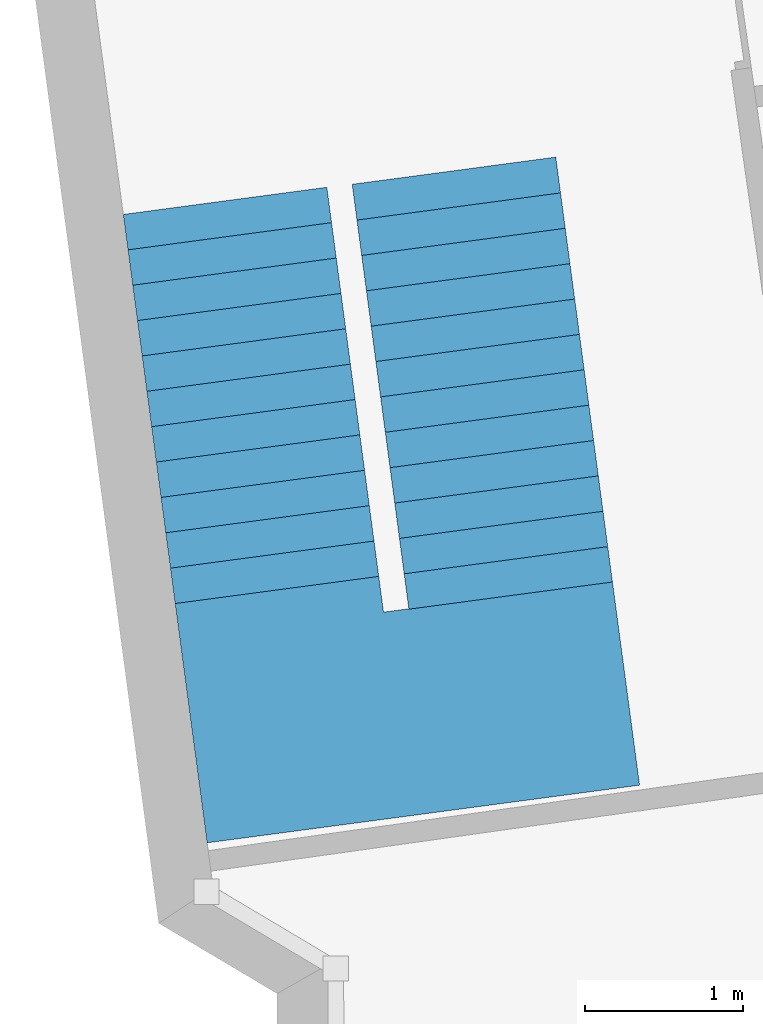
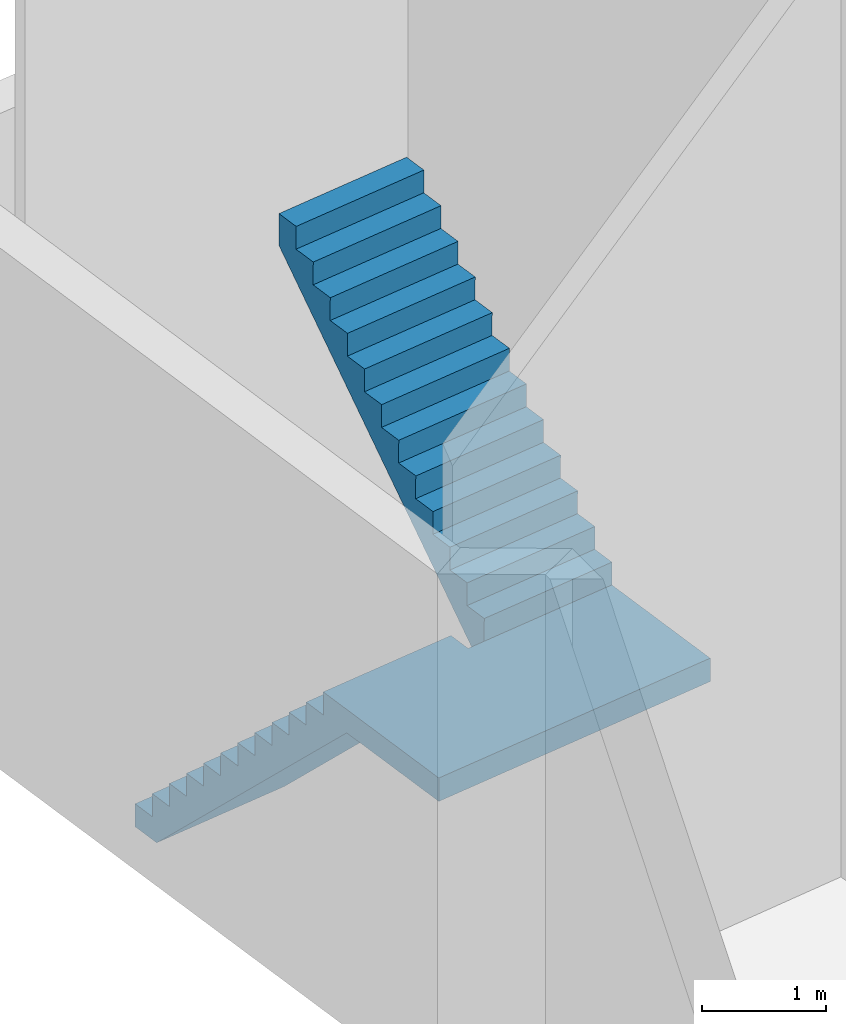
# One storey, part 36 of 40: 1 stair.
"""IFC2X3 building model written with IfcOpenShell, lengths in metres."""

from ifc_helpers import new_model, entity, si_unit, converted_unit, money_unit, direction, frame, origin_with_axes, place, context, subcontext, project, spatial, faceted_brep, material, element, save


model = new_model("IFC2X3")

# Units and contexts
model_context = context("Model", 3, precision=1e-05, world=origin_with_axes(), true_north=direction((0.0, 1.0)))
body_context = subcontext(model_context, "Body", "Model", "MODEL_VIEW")
ifc_project = project(units=[si_unit("LENGTHUNIT", "METRE"), si_unit("AREAUNIT", "SQUARE_METRE"), si_unit("VOLUMEUNIT", "CUBIC_METRE"), converted_unit("PLANEANGLEUNIT", "DEGREE", entity("IfcPlaneAngleMeasure", 0.0174532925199), si_unit("PLANEANGLEUNIT", "RADIAN"), dimensions=[0, 0, 0, 0, 0, 0, 0]), si_unit("SOLIDANGLEUNIT", "STERADIAN"), money_unit("EUR"), converted_unit("TIMEUNIT", "Year", entity("IfcTimeMeasure", 31556926.0), si_unit("TIMEUNIT", "SECOND"), dimensions=[0, 0, 0, 0, 0, 0, 0]), si_unit("MASSUNIT", "GRAM"), si_unit("THERMODYNAMICTEMPERATUREUNIT", "DEGREE_CELSIUS"), si_unit("LUMINOUSINTENSITYUNIT", "LUMEN")], contexts=[model_context])

# Site, building, storey
site_placement = place(None, origin_with_axes())
site = spatial("IfcSite", under=ifc_project, at=site_placement, Name="Undefined", CompositionType="ELEMENT")
building_placement = place(site_placement, origin_with_axes())
building = spatial("IfcBuilding", under=site, at=building_placement, Name="Undefined", CompositionType="ELEMENT")
storey_placement = place(building_placement, origin_with_axes())
storey = spatial("IfcBuildingStorey", under=building, at=storey_placement, Name="Rez de chauss\x8ee", CompositionType="ELEMENT", Elevation=0.0)

# Stair
ifc_material = material(Name="Concrete Block")
stair_placement = place(storey_placement, frame((-1.34151380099, 23.3619853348, 0.0), z_axis=(0.0, 0.0, 1.0), x_axis=(0.132256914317, -0.991215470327, 0.0)))
element("IfcStair", 1, at=stair_placement, inside=storey, material=ifc_material, Name="Stair_01", ObjectType="STAIR", ShapeType="NOTDEFINED", context=body_context, shape_type="Brep", body=[
    faceted_brep([(0.283132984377, 0.0, 0.0), (0.283132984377, 1.29732646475, 0.0), (2.78826168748, 1.29732646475, 2.47), (2.78826168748, 0.0, 2.47), (0.02, 0.0, 0.0), (0.02, 1.29732646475, 0.0), (0.02, 1.29732646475, 0.195), (0.245461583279, 1.29732646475, 0.195), (0.245461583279, 1.29732646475, 0.42), (0.470923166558, 1.29732646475, 0.42), (0.470923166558, 1.29732646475, 0.645), (0.696384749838, 1.29732646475, 0.645), (0.696384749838, 1.29732646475, 0.87), (0.921846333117, 1.29732646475, 0.87), (0.921846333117, 1.29732646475, 1.095), (1.1473079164, 1.29732646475, 1.095), (1.1473079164, 1.29732646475, 1.32), (1.37276949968, 1.29732646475, 1.32), (1.37276949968, 1.29732646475, 1.545), (1.59823108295, 1.29732646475, 1.545), (1.59823108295, 1.29732646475, 1.77), (1.82369266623, 1.29732646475, 1.77), (1.82369266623, 1.29732646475, 1.995), (2.04915424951, 1.29732646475, 1.995), (2.04915424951, 1.29732646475, 2.22), (2.27461583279, 1.29732646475, 2.22), (2.27461583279, 1.29732646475, 2.445), (2.50007741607, 1.29732646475, 2.445), (2.50007741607, 1.29732646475, 2.67), (2.72553899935, 1.29732646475, 2.67), (4.0028654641, 1.29732646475, 2.67), (4.0028654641, 1.29732646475, 2.47), (4.0028654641, 0.0, 2.47), (4.0028654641, 0.0, 2.67), (2.72553899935, 0.0, 2.67), (2.50007741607, 0.0, 2.67), (2.50007741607, 0.0, 2.445), (2.27461583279, 0.0, 2.445), (2.27461583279, 0.0, 2.22), (2.04915424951, 0.0, 2.22), (2.04915424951, 0.0, 1.995), (1.82369266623, 0.0, 1.995), (1.82369266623, 0.0, 1.77), (1.59823108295, 0.0, 1.77), (1.59823108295, 0.0, 1.545), (1.37276949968, 0.0, 1.545), (1.37276949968, 0.0, 1.32), (1.1473079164, 0.0, 1.32), (1.1473079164, 0.0, 1.095), (0.921846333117, 0.0, 1.095), (0.921846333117, 0.0, 0.87), (0.696384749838, 0.0, 0.87), (0.696384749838, 0.0, 0.645), (0.470923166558, 0.0, 0.645), (0.470923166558, 0.0, 0.42), (0.245461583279, 0.0, 0.42), (0.245461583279, 0.0, 0.195), (0.02, 0.0, 0.195)], [[[0, 1, 2, 3]], [[4, 5, 1, 0]], [[1, 5, 6, 7, 8, 9, 10, 11, 12, 13, 14, 15, 16, 17, 18, 19, 20, 21, 22, 23, 24, 25, 26, 27, 28, 29, 30, 31, 2]], [[3, 2, 31, 32]], [[0, 3, 32, 33, 34, 35, 36, 37, 38, 39, 40, 41, 42, 43, 44, 45, 46, 47, 48, 49, 50, 51, 52, 53, 54, 55, 56, 57, 4]], [[57, 6, 5, 4]], [[56, 7, 6, 57]], [[55, 8, 7, 56]], [[54, 9, 8, 55]], [[53, 10, 9, 54]], [[52, 11, 10, 53]], [[51, 12, 11, 52]], [[50, 13, 12, 51]], [[49, 14, 13, 50]], [[48, 15, 14, 49]], [[47, 16, 15, 48]], [[46, 17, 16, 47]], [[45, 18, 17, 46]], [[44, 19, 18, 45]], [[43, 20, 19, 44]], [[42, 21, 20, 43]], [[41, 22, 21, 42]], [[40, 23, 22, 41]], [[39, 24, 23, 40]], [[38, 25, 24, 39]], [[37, 26, 25, 38]], [[36, 27, 26, 37]], [[35, 28, 27, 36]], [[34, 29, 28, 35]], [[33, 30, 29, 34]], [[32, 31, 30, 33]]]),
    faceted_brep([(2.70553899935, 1.29732646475, 2.67), (2.70553899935, 1.45900763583, 2.67), (2.70553899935, 1.45900763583, 2.47), (2.70553899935, 1.29732646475, 2.47), (4.0028654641, 1.29732646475, 2.67), (4.0028654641, 1.45900763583, 2.67), (4.0028654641, 1.45900763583, 2.47), (2.78826168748, 1.45900763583, 2.47), (2.78826168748, 1.29732646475, 2.47), (4.0028654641, 1.29732646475, 2.47)], [[[0, 1, 2, 3]], [[4, 5, 1, 0]], [[1, 5, 6, 7, 2]], [[3, 2, 7, 8]], [[0, 3, 8, 9, 4]], [[9, 6, 5, 4]], [[8, 7, 6, 9]]]),
    faceted_brep([(2.70553899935, 1.45900763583, 2.67), (2.70553899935, 2.75633410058, 2.67), (2.70553899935, 2.75633410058, 2.47), (2.70553899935, 1.45900763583, 2.47), (4.0028654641, 1.45900763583, 2.67), (4.0028654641, 2.75633410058, 2.67), (4.0028654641, 2.75633410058, 2.47), (4.0028654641, 1.45900763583, 2.47)], [[[0, 1, 2, 3]], [[4, 5, 1, 0]], [[1, 5, 6, 2]], [[3, 2, 6, 7]], [[0, 3, 7, 4]], [[7, 6, 5, 4]]]),
    faceted_brep([(2.70553899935, 1.45900763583, 2.47), (2.62281631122, 1.45900763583, 2.47), (2.62281631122, 2.75633410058, 2.47), (2.70553899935, 2.75633410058, 2.47), (2.70553899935, 1.45900763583, 2.67), (2.68553899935, 1.45900763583, 2.67), (2.68553899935, 1.45900763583, 2.895), (2.46007741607, 1.45900763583, 2.895), (2.46007741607, 1.45900763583, 3.12), (2.23461583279, 1.45900763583, 3.12), (2.23461583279, 1.45900763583, 3.345), (2.00915424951, 1.45900763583, 3.345), (2.00915424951, 1.45900763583, 3.57), (1.78369266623, 1.45900763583, 3.57), (1.78369266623, 1.45900763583, 3.795), (1.55823108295, 1.45900763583, 3.795), (1.55823108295, 1.45900763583, 4.02), (1.33276949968, 1.45900763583, 4.02), (1.33276949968, 1.45900763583, 4.245), (1.1073079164, 1.45900763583, 4.245), (1.1073079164, 1.45900763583, 4.47), (0.881846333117, 1.45900763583, 4.47), (0.881846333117, 1.45900763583, 4.695), (0.656384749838, 1.45900763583, 4.695), (0.656384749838, 1.45900763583, 4.92), (0.430923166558, 1.45900763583, 4.92), (0.430923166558, 1.45900763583, 5.145), (0.205461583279, 1.45900763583, 5.145), (0.205461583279, 1.45900763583, 5.37), (0.0, 1.45900763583, 5.37), (0.0, 1.45900763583, 5.08744666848), (0.0, 2.75633410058, 5.08744666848), (0.0, 2.75633410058, 5.37), (0.205461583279, 2.75633410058, 5.37), (0.205461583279, 2.75633410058, 5.145), (0.430923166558, 2.75633410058, 5.145), (0.430923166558, 2.75633410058, 4.92), (0.656384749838, 2.75633410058, 4.92), (0.656384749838, 2.75633410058, 4.695), (0.881846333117, 2.75633410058, 4.695), (0.881846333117, 2.75633410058, 4.47), (1.1073079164, 2.75633410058, 4.47), (1.1073079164, 2.75633410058, 4.245), (1.33276949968, 2.75633410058, 4.245), (1.33276949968, 2.75633410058, 4.02), (1.55823108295, 2.75633410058, 4.02), (1.55823108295, 2.75633410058, 3.795), (1.78369266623, 2.75633410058, 3.795), (1.78369266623, 2.75633410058, 3.57), (2.00915424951, 2.75633410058, 3.57), (2.00915424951, 2.75633410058, 3.345), (2.23461583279, 2.75633410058, 3.345), (2.23461583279, 2.75633410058, 3.12), (2.46007741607, 2.75633410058, 3.12), (2.46007741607, 2.75633410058, 2.895), (2.68553899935, 2.75633410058, 2.895), (2.68553899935, 2.75633410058, 2.67), (2.70553899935, 2.75633410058, 2.67)], [[[0, 1, 2, 3]], [[0, 4, 5, 6, 7, 8, 9, 10, 11, 12, 13, 14, 15, 16, 17, 18, 19, 20, 21, 22, 23, 24, 25, 26, 27, 28, 29, 30, 1]], [[1, 30, 31, 2]], [[3, 2, 31, 32, 33, 34, 35, 36, 37, 38, 39, 40, 41, 42, 43, 44, 45, 46, 47, 48, 49, 50, 51, 52, 53, 54, 55, 56, 57]], [[4, 0, 3, 57]], [[5, 4, 57, 56]], [[6, 5, 56, 55]], [[7, 6, 55, 54]], [[8, 7, 54, 53]], [[9, 8, 53, 52]], [[10, 9, 52, 51]], [[11, 10, 51, 50]], [[12, 11, 50, 49]], [[13, 12, 49, 48]], [[14, 13, 48, 47]], [[15, 14, 47, 46]], [[16, 15, 46, 45]], [[17, 16, 45, 44]], [[18, 17, 44, 43]], [[19, 18, 43, 42]], [[20, 19, 42, 41]], [[21, 20, 41, 40]], [[22, 21, 40, 39]], [[23, 22, 39, 38]], [[24, 23, 38, 37]], [[25, 24, 37, 36]], [[26, 25, 36, 35]], [[27, 26, 35, 34]], [[28, 27, 34, 33]], [[29, 28, 33, 32]], [[30, 29, 32, 31]]]),
    faceted_brep([(0.0, 0.0, 0.0), (0.0, 1.29732646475, 0.0), (0.02, 1.29732646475, 0.0), (0.02, 0.0, 0.0), (0.0, 0.0, 0.195), (0.0, 1.29732646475, 0.195), (0.02, 1.29732646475, 0.195), (0.02, 0.0, 0.195)], [[[0, 1, 2, 3]], [[4, 5, 1, 0]], [[1, 5, 6, 2]], [[3, 2, 6, 7]], [[0, 3, 7, 4]], [[7, 6, 5, 4]]]),
    faceted_brep([(0.225461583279, 0.0, 0.225), (0.225461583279, 1.29732646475, 0.225), (0.245461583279, 1.29732646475, 0.225), (0.245461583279, 0.0, 0.225), (0.225461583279, 0.0, 0.42), (0.225461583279, 1.29732646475, 0.42), (0.245461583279, 1.29732646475, 0.42), (0.245461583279, 0.0, 0.42)], [[[0, 1, 2, 3]], [[4, 5, 1, 0]], [[1, 5, 6, 2]], [[3, 2, 6, 7]], [[0, 3, 7, 4]], [[7, 6, 5, 4]]]),
    faceted_brep([(0.450923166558, 0.0, 0.45), (0.450923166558, 1.29732646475, 0.45), (0.470923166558, 1.29732646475, 0.45), (0.470923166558, 0.0, 0.45), (0.450923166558, 0.0, 0.645), (0.450923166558, 1.29732646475, 0.645), (0.470923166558, 1.29732646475, 0.645), (0.470923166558, 0.0, 0.645)], [[[0, 1, 2, 3]], [[4, 5, 1, 0]], [[1, 5, 6, 2]], [[3, 2, 6, 7]], [[0, 3, 7, 4]], [[7, 6, 5, 4]]]),
    faceted_brep([(0.676384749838, 0.0, 0.675), (0.676384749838, 1.29732646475, 0.675), (0.696384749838, 1.29732646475, 0.675), (0.696384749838, 0.0, 0.675), (0.676384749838, 0.0, 0.87), (0.676384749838, 1.29732646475, 0.87), (0.696384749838, 1.29732646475, 0.87), (0.696384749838, 0.0, 0.87)], [[[0, 1, 2, 3]], [[4, 5, 1, 0]], [[1, 5, 6, 2]], [[3, 2, 6, 7]], [[0, 3, 7, 4]], [[7, 6, 5, 4]]]),
    faceted_brep([(0.901846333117, 0.0, 0.9), (0.901846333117, 1.29732646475, 0.9), (0.921846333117, 1.29732646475, 0.9), (0.921846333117, 0.0, 0.9), (0.901846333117, 0.0, 1.095), (0.901846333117, 1.29732646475, 1.095), (0.921846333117, 1.29732646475, 1.095), (0.921846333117, 0.0, 1.095)], [[[0, 1, 2, 3]], [[4, 5, 1, 0]], [[1, 5, 6, 2]], [[3, 2, 6, 7]], [[0, 3, 7, 4]], [[7, 6, 5, 4]]]),
    faceted_brep([(1.1273079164, 0.0, 1.125), (1.1273079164, 1.29732646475, 1.125), (1.1473079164, 1.29732646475, 1.125), (1.1473079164, 0.0, 1.125), (1.1273079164, 0.0, 1.32), (1.1273079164, 1.29732646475, 1.32), (1.1473079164, 1.29732646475, 1.32), (1.1473079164, 0.0, 1.32)], [[[0, 1, 2, 3]], [[4, 5, 1, 0]], [[1, 5, 6, 2]], [[3, 2, 6, 7]], [[0, 3, 7, 4]], [[7, 6, 5, 4]]]),
    faceted_brep([(1.35276949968, 0.0, 1.35), (1.35276949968, 1.29732646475, 1.35), (1.37276949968, 1.29732646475, 1.35), (1.37276949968, 0.0, 1.35), (1.35276949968, 0.0, 1.545), (1.35276949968, 1.29732646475, 1.545), (1.37276949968, 1.29732646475, 1.545), (1.37276949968, 0.0, 1.545)], [[[0, 1, 2, 3]], [[4, 5, 1, 0]], [[1, 5, 6, 2]], [[3, 2, 6, 7]], [[0, 3, 7, 4]], [[7, 6, 5, 4]]]),
    faceted_brep([(1.57823108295, 0.0, 1.575), (1.57823108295, 1.29732646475, 1.575), (1.59823108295, 1.29732646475, 1.575), (1.59823108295, 0.0, 1.575), (1.57823108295, 0.0, 1.77), (1.57823108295, 1.29732646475, 1.77), (1.59823108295, 1.29732646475, 1.77), (1.59823108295, 0.0, 1.77)], [[[0, 1, 2, 3]], [[4, 5, 1, 0]], [[1, 5, 6, 2]], [[3, 2, 6, 7]], [[0, 3, 7, 4]], [[7, 6, 5, 4]]]),
    faceted_brep([(1.80369266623, 0.0, 1.8), (1.80369266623, 1.29732646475, 1.8), (1.82369266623, 1.29732646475, 1.8), (1.82369266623, 0.0, 1.8), (1.80369266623, 0.0, 1.995), (1.80369266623, 1.29732646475, 1.995), (1.82369266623, 1.29732646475, 1.995), (1.82369266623, 0.0, 1.995)], [[[0, 1, 2, 3]], [[4, 5, 1, 0]], [[1, 5, 6, 2]], [[3, 2, 6, 7]], [[0, 3, 7, 4]], [[7, 6, 5, 4]]]),
    faceted_brep([(2.02915424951, 0.0, 2.025), (2.02915424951, 1.29732646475, 2.025), (2.04915424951, 1.29732646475, 2.025), (2.04915424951, 0.0, 2.025), (2.02915424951, 0.0, 2.22), (2.02915424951, 1.29732646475, 2.22), (2.04915424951, 1.29732646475, 2.22), (2.04915424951, 0.0, 2.22)], [[[0, 1, 2, 3]], [[4, 5, 1, 0]], [[1, 5, 6, 2]], [[3, 2, 6, 7]], [[0, 3, 7, 4]], [[7, 6, 5, 4]]]),
    faceted_brep([(2.25461583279, 0.0, 2.25), (2.25461583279, 1.29732646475, 2.25), (2.27461583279, 1.29732646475, 2.25), (2.27461583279, 0.0, 2.25), (2.25461583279, 0.0, 2.445), (2.25461583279, 1.29732646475, 2.445), (2.27461583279, 1.29732646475, 2.445), (2.27461583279, 0.0, 2.445)], [[[0, 1, 2, 3]], [[4, 5, 1, 0]], [[1, 5, 6, 2]], [[3, 2, 6, 7]], [[0, 3, 7, 4]], [[7, 6, 5, 4]]]),
    faceted_brep([(2.48007741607, 0.0, 2.475), (2.48007741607, 1.29732646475, 2.475), (2.50007741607, 1.29732646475, 2.475), (2.50007741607, 0.0, 2.475), (2.48007741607, 0.0, 2.67), (2.48007741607, 1.29732646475, 2.67), (2.50007741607, 1.29732646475, 2.67), (2.50007741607, 0.0, 2.67)], [[[0, 1, 2, 3]], [[4, 5, 1, 0]], [[1, 5, 6, 2]], [[3, 2, 6, 7]], [[0, 3, 7, 4]], [[7, 6, 5, 4]]]),
    faceted_brep([(2.70553899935, 1.45900763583, 2.7), (2.68553899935, 1.45900763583, 2.7), (2.68553899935, 2.75633410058, 2.7), (2.70553899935, 2.75633410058, 2.7), (2.70553899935, 1.45900763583, 2.895), (2.68553899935, 1.45900763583, 2.895), (2.68553899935, 2.75633410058, 2.895), (2.70553899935, 2.75633410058, 2.895)], [[[0, 1, 2, 3]], [[0, 4, 5, 1]], [[1, 5, 6, 2]], [[3, 2, 6, 7]], [[4, 0, 3, 7]], [[5, 4, 7, 6]]]),
    faceted_brep([(2.48007741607, 1.45900763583, 2.925), (2.46007741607, 1.45900763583, 2.925), (2.46007741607, 2.75633410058, 2.925), (2.48007741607, 2.75633410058, 2.925), (2.48007741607, 1.45900763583, 3.12), (2.46007741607, 1.45900763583, 3.12), (2.46007741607, 2.75633410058, 3.12), (2.48007741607, 2.75633410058, 3.12)], [[[0, 1, 2, 3]], [[0, 4, 5, 1]], [[1, 5, 6, 2]], [[3, 2, 6, 7]], [[4, 0, 3, 7]], [[5, 4, 7, 6]]]),
    faceted_brep([(2.25461583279, 1.45900763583, 3.15), (2.23461583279, 1.45900763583, 3.15), (2.23461583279, 2.75633410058, 3.15), (2.25461583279, 2.75633410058, 3.15), (2.25461583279, 1.45900763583, 3.345), (2.23461583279, 1.45900763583, 3.345), (2.23461583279, 2.75633410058, 3.345), (2.25461583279, 2.75633410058, 3.345)], [[[0, 1, 2, 3]], [[0, 4, 5, 1]], [[1, 5, 6, 2]], [[3, 2, 6, 7]], [[4, 0, 3, 7]], [[5, 4, 7, 6]]]),
    faceted_brep([(2.02915424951, 1.45900763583, 3.375), (2.00915424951, 1.45900763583, 3.375), (2.00915424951, 2.75633410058, 3.375), (2.02915424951, 2.75633410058, 3.375), (2.02915424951, 1.45900763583, 3.57), (2.00915424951, 1.45900763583, 3.57), (2.00915424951, 2.75633410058, 3.57), (2.02915424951, 2.75633410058, 3.57)], [[[0, 1, 2, 3]], [[0, 4, 5, 1]], [[1, 5, 6, 2]], [[3, 2, 6, 7]], [[4, 0, 3, 7]], [[5, 4, 7, 6]]]),
    faceted_brep([(1.80369266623, 1.45900763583, 3.6), (1.78369266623, 1.45900763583, 3.6), (1.78369266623, 2.75633410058, 3.6), (1.80369266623, 2.75633410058, 3.6), (1.80369266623, 1.45900763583, 3.795), (1.78369266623, 1.45900763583, 3.795), (1.78369266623, 2.75633410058, 3.795), (1.80369266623, 2.75633410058, 3.795)], [[[0, 1, 2, 3]], [[0, 4, 5, 1]], [[1, 5, 6, 2]], [[3, 2, 6, 7]], [[4, 0, 3, 7]], [[5, 4, 7, 6]]]),
    faceted_brep([(1.57823108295, 1.45900763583, 3.825), (1.55823108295, 1.45900763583, 3.825), (1.55823108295, 2.75633410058, 3.825), (1.57823108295, 2.75633410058, 3.825), (1.57823108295, 1.45900763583, 4.02), (1.55823108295, 1.45900763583, 4.02), (1.55823108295, 2.75633410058, 4.02), (1.57823108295, 2.75633410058, 4.02)], [[[0, 1, 2, 3]], [[0, 4, 5, 1]], [[1, 5, 6, 2]], [[3, 2, 6, 7]], [[4, 0, 3, 7]], [[5, 4, 7, 6]]]),
    faceted_brep([(1.35276949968, 1.45900763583, 4.05), (1.33276949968, 1.45900763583, 4.05), (1.33276949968, 2.75633410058, 4.05), (1.35276949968, 2.75633410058, 4.05), (1.35276949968, 1.45900763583, 4.245), (1.33276949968, 1.45900763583, 4.245), (1.33276949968, 2.75633410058, 4.245), (1.35276949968, 2.75633410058, 4.245)], [[[0, 1, 2, 3]], [[0, 4, 5, 1]], [[1, 5, 6, 2]], [[3, 2, 6, 7]], [[4, 0, 3, 7]], [[5, 4, 7, 6]]]),
    faceted_brep([(1.1273079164, 1.45900763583, 4.275), (1.1073079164, 1.45900763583, 4.275), (1.1073079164, 2.75633410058, 4.275), (1.1273079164, 2.75633410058, 4.275), (1.1273079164, 1.45900763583, 4.47), (1.1073079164, 1.45900763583, 4.47), (1.1073079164, 2.75633410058, 4.47), (1.1273079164, 2.75633410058, 4.47)], [[[0, 1, 2, 3]], [[0, 4, 5, 1]], [[1, 5, 6, 2]], [[3, 2, 6, 7]], [[4, 0, 3, 7]], [[5, 4, 7, 6]]]),
    faceted_brep([(0.901846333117, 1.45900763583, 4.5), (0.881846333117, 1.45900763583, 4.5), (0.881846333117, 2.75633410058, 4.5), (0.901846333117, 2.75633410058, 4.5), (0.901846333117, 1.45900763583, 4.695), (0.881846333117, 1.45900763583, 4.695), (0.881846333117, 2.75633410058, 4.695), (0.901846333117, 2.75633410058, 4.695)], [[[0, 1, 2, 3]], [[0, 4, 5, 1]], [[1, 5, 6, 2]], [[3, 2, 6, 7]], [[4, 0, 3, 7]], [[5, 4, 7, 6]]]),
    faceted_brep([(0.676384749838, 1.45900763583, 4.725), (0.656384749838, 1.45900763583, 4.725), (0.656384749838, 2.75633410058, 4.725), (0.676384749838, 2.75633410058, 4.725), (0.676384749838, 1.45900763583, 4.92), (0.656384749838, 1.45900763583, 4.92), (0.656384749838, 2.75633410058, 4.92), (0.676384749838, 2.75633410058, 4.92)], [[[0, 1, 2, 3]], [[0, 4, 5, 1]], [[1, 5, 6, 2]], [[3, 2, 6, 7]], [[4, 0, 3, 7]], [[5, 4, 7, 6]]]),
    faceted_brep([(0.450923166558, 1.45900763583, 4.95), (0.430923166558, 1.45900763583, 4.95), (0.430923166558, 2.75633410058, 4.95), (0.450923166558, 2.75633410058, 4.95), (0.450923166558, 1.45900763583, 5.145), (0.430923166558, 1.45900763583, 5.145), (0.430923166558, 2.75633410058, 5.145), (0.450923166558, 2.75633410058, 5.145)], [[[0, 1, 2, 3]], [[0, 4, 5, 1]], [[1, 5, 6, 2]], [[3, 2, 6, 7]], [[4, 0, 3, 7]], [[5, 4, 7, 6]]]),
    faceted_brep([(0.225461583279, 1.45900763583, 5.175), (0.205461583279, 1.45900763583, 5.175), (0.205461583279, 2.75633410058, 5.175), (0.225461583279, 2.75633410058, 5.175), (0.225461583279, 1.45900763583, 5.37), (0.205461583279, 1.45900763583, 5.37), (0.205461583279, 2.75633410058, 5.37), (0.225461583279, 2.75633410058, 5.37)], [[[0, 1, 2, 3]], [[0, 4, 5, 1]], [[1, 5, 6, 2]], [[3, 2, 6, 7]], [[4, 0, 3, 7]], [[5, 4, 7, 6]]]),
    faceted_brep([(-0.0025, 0.0, 0.195), (-0.0025, 1.29732646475, 0.195), (0.245461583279, 1.29732646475, 0.195), (0.245461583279, 0.0, 0.195), (-0.0025, 0.0, 0.225), (-0.0025, 1.29732646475, 0.225), (0.245461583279, 1.29732646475, 0.225), (0.245461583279, 0.0, 0.225)], [[[0, 1, 2, 3]], [[4, 5, 1, 0]], [[1, 5, 6, 2]], [[3, 2, 6, 7]], [[0, 3, 7, 4]], [[7, 6, 5, 4]]]),
    faceted_brep([(0.222961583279, 0.0, 0.42), (0.222961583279, 1.29732646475, 0.42), (0.470923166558, 1.29732646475, 0.42), (0.470923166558, 0.0, 0.42), (0.222961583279, 0.0, 0.45), (0.222961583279, 1.29732646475, 0.45), (0.470923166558, 1.29732646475, 0.45), (0.470923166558, 0.0, 0.45)], [[[0, 1, 2, 3]], [[4, 5, 1, 0]], [[1, 5, 6, 2]], [[3, 2, 6, 7]], [[0, 3, 7, 4]], [[7, 6, 5, 4]]]),
    faceted_brep([(0.448423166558, 0.0, 0.645), (0.448423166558, 1.29732646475, 0.645), (0.696384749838, 1.29732646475, 0.645), (0.696384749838, 0.0, 0.645), (0.448423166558, 0.0, 0.675), (0.448423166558, 1.29732646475, 0.675), (0.696384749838, 1.29732646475, 0.675), (0.696384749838, 0.0, 0.675)], [[[0, 1, 2, 3]], [[4, 5, 1, 0]], [[1, 5, 6, 2]], [[3, 2, 6, 7]], [[0, 3, 7, 4]], [[7, 6, 5, 4]]]),
    faceted_brep([(0.673884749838, 0.0, 0.87), (0.673884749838, 1.29732646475, 0.87), (0.921846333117, 1.29732646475, 0.87), (0.921846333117, 0.0, 0.87), (0.673884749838, 0.0, 0.9), (0.673884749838, 1.29732646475, 0.9), (0.921846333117, 1.29732646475, 0.9), (0.921846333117, 0.0, 0.9)], [[[0, 1, 2, 3]], [[4, 5, 1, 0]], [[1, 5, 6, 2]], [[3, 2, 6, 7]], [[0, 3, 7, 4]], [[7, 6, 5, 4]]]),
    faceted_brep([(0.899346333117, 0.0, 1.095), (0.899346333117, 1.29732646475, 1.095), (1.1473079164, 1.29732646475, 1.095), (1.1473079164, 0.0, 1.095), (0.899346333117, 0.0, 1.125), (0.899346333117, 1.29732646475, 1.125), (1.1473079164, 1.29732646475, 1.125), (1.1473079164, 0.0, 1.125)], [[[0, 1, 2, 3]], [[4, 5, 1, 0]], [[1, 5, 6, 2]], [[3, 2, 6, 7]], [[0, 3, 7, 4]], [[7, 6, 5, 4]]]),
    faceted_brep([(1.1248079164, 0.0, 1.32), (1.1248079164, 1.29732646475, 1.32), (1.37276949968, 1.29732646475, 1.32), (1.37276949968, 0.0, 1.32), (1.1248079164, 0.0, 1.35), (1.1248079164, 1.29732646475, 1.35), (1.37276949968, 1.29732646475, 1.35), (1.37276949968, 0.0, 1.35)], [[[0, 1, 2, 3]], [[4, 5, 1, 0]], [[1, 5, 6, 2]], [[3, 2, 6, 7]], [[0, 3, 7, 4]], [[7, 6, 5, 4]]]),
    faceted_brep([(1.35026949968, 0.0, 1.545), (1.35026949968, 1.29732646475, 1.545), (1.59823108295, 1.29732646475, 1.545), (1.59823108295, 0.0, 1.545), (1.35026949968, 0.0, 1.575), (1.35026949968, 1.29732646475, 1.575), (1.59823108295, 1.29732646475, 1.575), (1.59823108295, 0.0, 1.575)], [[[0, 1, 2, 3]], [[4, 5, 1, 0]], [[1, 5, 6, 2]], [[3, 2, 6, 7]], [[0, 3, 7, 4]], [[7, 6, 5, 4]]]),
    faceted_brep([(1.57573108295, 0.0, 1.77), (1.57573108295, 1.29732646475, 1.77), (1.82369266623, 1.29732646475, 1.77), (1.82369266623, 0.0, 1.77), (1.57573108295, 0.0, 1.8), (1.57573108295, 1.29732646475, 1.8), (1.82369266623, 1.29732646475, 1.8), (1.82369266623, 0.0, 1.8)], [[[0, 1, 2, 3]], [[4, 5, 1, 0]], [[1, 5, 6, 2]], [[3, 2, 6, 7]], [[0, 3, 7, 4]], [[7, 6, 5, 4]]]),
    faceted_brep([(1.80119266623, 0.0, 1.995), (1.80119266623, 1.29732646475, 1.995), (2.04915424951, 1.29732646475, 1.995), (2.04915424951, 0.0, 1.995), (1.80119266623, 0.0, 2.025), (1.80119266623, 1.29732646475, 2.025), (2.04915424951, 1.29732646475, 2.025), (2.04915424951, 0.0, 2.025)], [[[0, 1, 2, 3]], [[4, 5, 1, 0]], [[1, 5, 6, 2]], [[3, 2, 6, 7]], [[0, 3, 7, 4]], [[7, 6, 5, 4]]]),
    faceted_brep([(2.02665424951, 0.0, 2.22), (2.02665424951, 1.29732646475, 2.22), (2.27461583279, 1.29732646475, 2.22), (2.27461583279, 0.0, 2.22), (2.02665424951, 0.0, 2.25), (2.02665424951, 1.29732646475, 2.25), (2.27461583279, 1.29732646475, 2.25), (2.27461583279, 0.0, 2.25)], [[[0, 1, 2, 3]], [[4, 5, 1, 0]], [[1, 5, 6, 2]], [[3, 2, 6, 7]], [[0, 3, 7, 4]], [[7, 6, 5, 4]]]),
    faceted_brep([(2.25211583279, 0.0, 2.445), (2.25211583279, 1.29732646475, 2.445), (2.50007741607, 1.29732646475, 2.445), (2.50007741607, 0.0, 2.445), (2.25211583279, 0.0, 2.475), (2.25211583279, 1.29732646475, 2.475), (2.50007741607, 1.29732646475, 2.475), (2.50007741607, 0.0, 2.475)], [[[0, 1, 2, 3]], [[4, 5, 1, 0]], [[1, 5, 6, 2]], [[3, 2, 6, 7]], [[0, 3, 7, 4]], [[7, 6, 5, 4]]]),
    faceted_brep([(2.47757741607, 0.0, 2.67), (2.47757741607, 1.29732646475, 2.67), (2.70553899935, 1.29732646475, 2.67), (2.70553899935, 0.0, 2.67), (2.47757741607, 0.0, 2.7), (2.47757741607, 1.29732646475, 2.7), (2.70553899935, 1.29732646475, 2.7), (2.70553899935, 0.0, 2.7)], [[[0, 1, 2, 3]], [[4, 5, 1, 0]], [[1, 5, 6, 2]], [[3, 2, 6, 7]], [[0, 3, 7, 4]], [[7, 6, 5, 4]]]),
    faceted_brep([(4.0028654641, 0.0, 2.67), (4.0028654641, 1.45900763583, 2.67), (4.0028654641, 1.45900763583, 2.7), (4.0028654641, 0.0, 2.7), (2.70553899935, 0.0, 2.67), (2.70553899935, 1.45900763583, 2.67), (2.70553899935, 1.45900763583, 2.7), (2.70553899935, 0.0, 2.7)], [[[0, 1, 2, 3]], [[4, 5, 1, 0]], [[1, 5, 6, 2]], [[3, 2, 6, 7]], [[0, 3, 7, 4]], [[7, 6, 5, 4]]]),
    faceted_brep([(4.0028654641, 1.45900763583, 2.67), (4.0028654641, 2.75633410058, 2.67), (4.0028654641, 2.75633410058, 2.7), (4.0028654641, 1.45900763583, 2.7), (2.68553899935, 1.45900763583, 2.67), (2.68553899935, 2.75633410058, 2.67), (2.68553899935, 2.75633410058, 2.7), (2.68553899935, 1.45900763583, 2.7)], [[[0, 1, 2, 3]], [[4, 5, 1, 0]], [[1, 5, 6, 2]], [[3, 2, 6, 7]], [[0, 3, 7, 4]], [[7, 6, 5, 4]]]),
    faceted_brep([(2.70803899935, 1.45900763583, 2.895), (2.46007741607, 1.45900763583, 2.895), (2.46007741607, 2.75633410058, 2.895), (2.70803899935, 2.75633410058, 2.895), (2.70803899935, 1.45900763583, 2.925), (2.46007741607, 1.45900763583, 2.925), (2.46007741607, 2.75633410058, 2.925), (2.70803899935, 2.75633410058, 2.925)], [[[0, 1, 2, 3]], [[0, 4, 5, 1]], [[1, 5, 6, 2]], [[3, 2, 6, 7]], [[4, 0, 3, 7]], [[5, 4, 7, 6]]]),
    faceted_brep([(2.48257741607, 1.45900763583, 3.12), (2.23461583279, 1.45900763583, 3.12), (2.23461583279, 2.75633410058, 3.12), (2.48257741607, 2.75633410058, 3.12), (2.48257741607, 1.45900763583, 3.15), (2.23461583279, 1.45900763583, 3.15), (2.23461583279, 2.75633410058, 3.15), (2.48257741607, 2.75633410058, 3.15)], [[[0, 1, 2, 3]], [[0, 4, 5, 1]], [[1, 5, 6, 2]], [[3, 2, 6, 7]], [[4, 0, 3, 7]], [[5, 4, 7, 6]]]),
    faceted_brep([(2.25711583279, 1.45900763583, 3.345), (2.00915424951, 1.45900763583, 3.345), (2.00915424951, 2.75633410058, 3.345), (2.25711583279, 2.75633410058, 3.345), (2.25711583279, 1.45900763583, 3.375), (2.00915424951, 1.45900763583, 3.375), (2.00915424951, 2.75633410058, 3.375), (2.25711583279, 2.75633410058, 3.375)], [[[0, 1, 2, 3]], [[0, 4, 5, 1]], [[1, 5, 6, 2]], [[3, 2, 6, 7]], [[4, 0, 3, 7]], [[5, 4, 7, 6]]]),
    faceted_brep([(2.03165424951, 1.45900763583, 3.57), (1.78369266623, 1.45900763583, 3.57), (1.78369266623, 2.75633410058, 3.57), (2.03165424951, 2.75633410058, 3.57), (2.03165424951, 1.45900763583, 3.6), (1.78369266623, 1.45900763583, 3.6), (1.78369266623, 2.75633410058, 3.6), (2.03165424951, 2.75633410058, 3.6)], [[[0, 1, 2, 3]], [[0, 4, 5, 1]], [[1, 5, 6, 2]], [[3, 2, 6, 7]], [[4, 0, 3, 7]], [[5, 4, 7, 6]]]),
    faceted_brep([(1.80619266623, 1.45900763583, 3.795), (1.55823108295, 1.45900763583, 3.795), (1.55823108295, 2.75633410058, 3.795), (1.80619266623, 2.75633410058, 3.795), (1.80619266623, 1.45900763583, 3.825), (1.55823108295, 1.45900763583, 3.825), (1.55823108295, 2.75633410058, 3.825), (1.80619266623, 2.75633410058, 3.825)], [[[0, 1, 2, 3]], [[0, 4, 5, 1]], [[1, 5, 6, 2]], [[3, 2, 6, 7]], [[4, 0, 3, 7]], [[5, 4, 7, 6]]]),
    faceted_brep([(1.58073108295, 1.45900763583, 4.02), (1.33276949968, 1.45900763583, 4.02), (1.33276949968, 2.75633410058, 4.02), (1.58073108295, 2.75633410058, 4.02), (1.58073108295, 1.45900763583, 4.05), (1.33276949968, 1.45900763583, 4.05), (1.33276949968, 2.75633410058, 4.05), (1.58073108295, 2.75633410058, 4.05)], [[[0, 1, 2, 3]], [[0, 4, 5, 1]], [[1, 5, 6, 2]], [[3, 2, 6, 7]], [[4, 0, 3, 7]], [[5, 4, 7, 6]]]),
    faceted_brep([(1.35526949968, 1.45900763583, 4.245), (1.1073079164, 1.45900763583, 4.245), (1.1073079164, 2.75633410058, 4.245), (1.35526949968, 2.75633410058, 4.245), (1.35526949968, 1.45900763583, 4.275), (1.1073079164, 1.45900763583, 4.275), (1.1073079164, 2.75633410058, 4.275), (1.35526949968, 2.75633410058, 4.275)], [[[0, 1, 2, 3]], [[0, 4, 5, 1]], [[1, 5, 6, 2]], [[3, 2, 6, 7]], [[4, 0, 3, 7]], [[5, 4, 7, 6]]]),
    faceted_brep([(1.1298079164, 1.45900763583, 4.47), (0.881846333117, 1.45900763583, 4.47), (0.881846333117, 2.75633410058, 4.47), (1.1298079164, 2.75633410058, 4.47), (1.1298079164, 1.45900763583, 4.5), (0.881846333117, 1.45900763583, 4.5), (0.881846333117, 2.75633410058, 4.5), (1.1298079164, 2.75633410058, 4.5)], [[[0, 1, 2, 3]], [[0, 4, 5, 1]], [[1, 5, 6, 2]], [[3, 2, 6, 7]], [[4, 0, 3, 7]], [[5, 4, 7, 6]]]),
    faceted_brep([(0.904346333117, 1.45900763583, 4.695), (0.656384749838, 1.45900763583, 4.695), (0.656384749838, 2.75633410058, 4.695), (0.904346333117, 2.75633410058, 4.695), (0.904346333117, 1.45900763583, 4.725), (0.656384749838, 1.45900763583, 4.725), (0.656384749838, 2.75633410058, 4.725), (0.904346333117, 2.75633410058, 4.725)], [[[0, 1, 2, 3]], [[0, 4, 5, 1]], [[1, 5, 6, 2]], [[3, 2, 6, 7]], [[4, 0, 3, 7]], [[5, 4, 7, 6]]]),
    faceted_brep([(0.678884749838, 1.45900763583, 4.92), (0.430923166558, 1.45900763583, 4.92), (0.430923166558, 2.75633410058, 4.92), (0.678884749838, 2.75633410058, 4.92), (0.678884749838, 1.45900763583, 4.95), (0.430923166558, 1.45900763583, 4.95), (0.430923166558, 2.75633410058, 4.95), (0.678884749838, 2.75633410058, 4.95)], [[[0, 1, 2, 3]], [[0, 4, 5, 1]], [[1, 5, 6, 2]], [[3, 2, 6, 7]], [[4, 0, 3, 7]], [[5, 4, 7, 6]]]),
    faceted_brep([(0.453423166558, 1.45900763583, 5.145), (0.205461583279, 1.45900763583, 5.145), (0.205461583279, 2.75633410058, 5.145), (0.453423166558, 2.75633410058, 5.145), (0.453423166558, 1.45900763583, 5.175), (0.205461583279, 1.45900763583, 5.175), (0.205461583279, 2.75633410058, 5.175), (0.453423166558, 2.75633410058, 5.175)], [[[0, 1, 2, 3]], [[0, 4, 5, 1]], [[1, 5, 6, 2]], [[3, 2, 6, 7]], [[4, 0, 3, 7]], [[5, 4, 7, 6]]]),
    faceted_brep([(0.227961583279, 1.45900763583, 5.37), (0.0, 1.45900763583, 5.37), (0.0, 2.75633410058, 5.37), (0.227961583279, 2.75633410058, 5.37), (0.227961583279, 1.45900763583, 5.4), (0.0, 1.45900763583, 5.4), (0.0, 2.75633410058, 5.4), (0.227961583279, 2.75633410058, 5.4)], [[[0, 1, 2, 3]], [[0, 4, 5, 1]], [[1, 5, 6, 2]], [[3, 2, 6, 7]], [[4, 0, 3, 7]], [[5, 4, 7, 6]]]),
])

save(model, "model.ifc")
